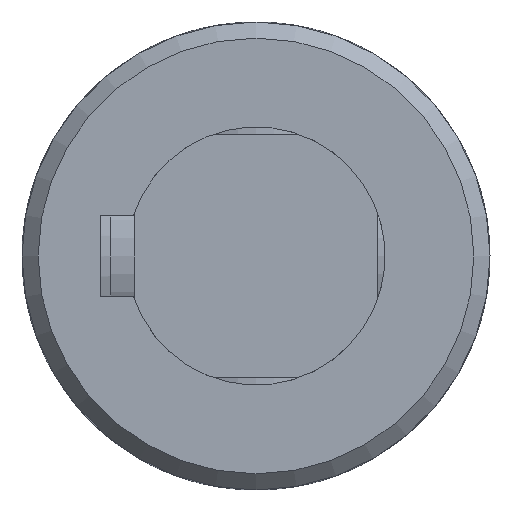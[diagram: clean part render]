
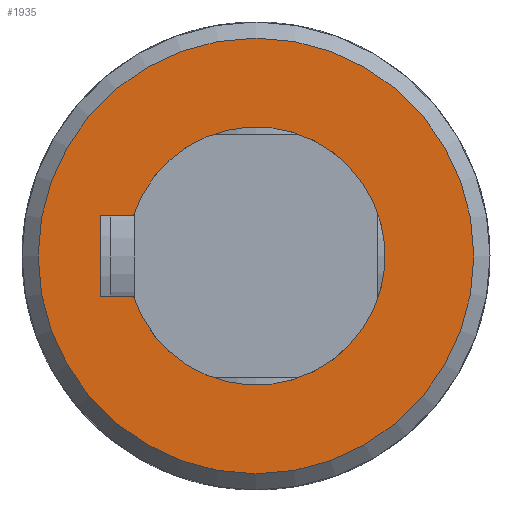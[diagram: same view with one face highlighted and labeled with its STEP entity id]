
A CAD part, front view. The second image highlights one B-rep face of the part: STEP entity #1935.
In plain terms, the highlighted planar face has unit normal (0, -1, 0).
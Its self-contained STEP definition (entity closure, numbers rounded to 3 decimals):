
#120=LINE('',#3564,#187);
#123=LINE('',#3581,#190);
#125=LINE('',#3587,#192);
#187=VECTOR('',#2483,4.101);
#190=VECTOR('',#2488,10.);
#192=VECTOR('',#2494,4.101);
#254=PLANE('',#2118);
#428=FACE_BOUND('',#679,.T.);
#520=FACE_OUTER_BOUND('',#678,.T.);
#678=EDGE_LOOP('',(#1626));
#679=EDGE_LOOP('',(#1627,#1628,#1629,#1630));
#799=CIRCLE('',#2113,16.);
#801=CIRCLE('',#2116,27.);
#946=VERTEX_POINT('',#3561);
#947=VERTEX_POINT('',#3563);
#949=VERTEX_POINT('',#3579);
#951=VERTEX_POINT('',#3585);
#957=VERTEX_POINT('',#3661);
#1181=EDGE_CURVE('',#947,#946,#120,.T.);
#1185=EDGE_CURVE('',#946,#949,#123,.T.);
#1188=EDGE_CURVE('',#949,#951,#125,.T.);
#1194=EDGE_CURVE('',#951,#947,#799,.T.);
#1196=EDGE_CURVE('',#957,#957,#801,.T.);
#1626=ORIENTED_EDGE('',*,*,#1196,.F.);
#1627=ORIENTED_EDGE('',*,*,#1181,.T.);
#1628=ORIENTED_EDGE('',*,*,#1185,.T.);
#1629=ORIENTED_EDGE('',*,*,#1188,.T.);
#1630=ORIENTED_EDGE('',*,*,#1194,.T.);
#1935=ADVANCED_FACE('',(#520,#428),#254,.F.);
#2113=AXIS2_PLACEMENT_3D('',#3657,#2503,#2504);
#2116=AXIS2_PLACEMENT_3D('',#3662,#2509,#2510);
#2118=AXIS2_PLACEMENT_3D('',#3870,#2517,#2518);
#2483=DIRECTION('',(0.,0.,-1.));
#2488=DIRECTION('',(-1.,0.,0.));
#2494=DIRECTION('',(0.,0.,1.));
#2503=DIRECTION('center_axis',(0.,1.,0.));
#2504=DIRECTION('ref_axis',(-0.313,0.,0.95));
#2509=DIRECTION('center_axis',(0.,1.,0.));
#2510=DIRECTION('ref_axis',(1.,0.,0.));
#2517=DIRECTION('center_axis',(0.,1.,0.));
#2518=DIRECTION('ref_axis',(0.,0.,1.));
#3561=CARTESIAN_POINT('',(5.,-79.5,-19.3));
#3563=CARTESIAN_POINT('',(5.,-79.5,-15.199));
#3564=CARTESIAN_POINT('',(5.,-79.5,-7.599));
#3579=CARTESIAN_POINT('',(-5.,-79.5,-19.3));
#3581=CARTESIAN_POINT('',(2.5,-79.5,-19.3));
#3585=CARTESIAN_POINT('',(-5.,-79.5,-15.199));
#3587=CARTESIAN_POINT('',(-5.,-79.5,-9.65));
#3657=CARTESIAN_POINT('Origin',(0.,-79.5,0.));
#3661=CARTESIAN_POINT('',(-27.,-79.5,0.));
#3662=CARTESIAN_POINT('Origin',(0.,-79.5,0.));
#3870=CARTESIAN_POINT('Origin',(0.,-79.5,0.));
